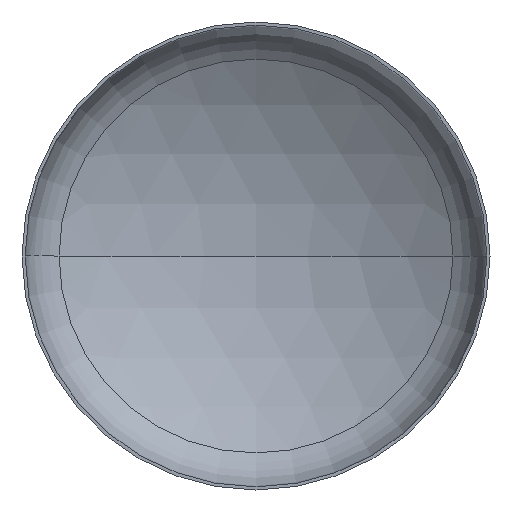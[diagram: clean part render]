
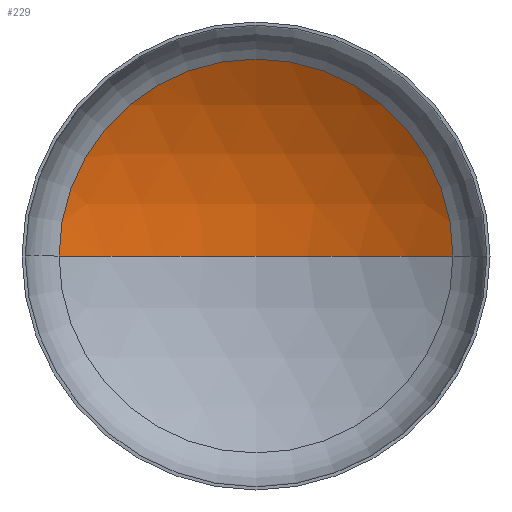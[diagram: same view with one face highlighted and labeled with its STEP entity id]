
A CAD part, front view. The second image highlights one B-rep face of the part: STEP entity #229.
In plain terms, the highlighted spherical face has radius 1520 mm.
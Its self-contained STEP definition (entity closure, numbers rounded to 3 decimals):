
#5 = AXIS2_PLACEMENT_3D ( 'NONE', #314, #170, #341 ) ;
#17 = FACE_OUTER_BOUND ( 'NONE', #21, .T. ) ;
#21 = EDGE_LOOP ( 'NONE', ( #36, #111, #65 ) ) ;
#22 = AXIS2_PLACEMENT_3D ( 'NONE', #288, #225, #180 ) ;
#34 = AXIS2_PLACEMENT_3D ( 'NONE', #191, #208, #210 ) ;
#35 = DIRECTION ( 'NONE',  ( 1., 0., 0. ) ) ;
#36 = ORIENTED_EDGE ( 'NONE', *, *, #371, .F. ) ;
#42 = AXIS2_PLACEMENT_3D ( 'NONE', #336, #285, #35 ) ;
#56 = VERTEX_POINT ( 'NONE', #294 ) ;
#65 = ORIENTED_EDGE ( 'NONE', *, *, #143, .T. ) ;
#104 = VERTEX_POINT ( 'NONE', #318 ) ;
#111 = ORIENTED_EDGE ( 'NONE', *, *, #149, .T. ) ;
#143 = EDGE_CURVE ( 'NONE', #104, #394, #260, .T. ) ;
#149 = EDGE_CURVE ( 'NONE', #56, #104, #311, .T. ) ;
#170 = DIRECTION ( 'NONE',  ( 0., 0., 1. ) ) ;
#180 = DIRECTION ( 'NONE',  ( -1., 0., 0. ) ) ;
#191 = CARTESIAN_POINT ( 'NONE',  ( 0., -1006.084, 0. ) ) ;
#208 = DIRECTION ( 'NONE',  ( 0., 0., -1. ) ) ;
#210 = DIRECTION ( 'NONE',  ( -1., 0., 0. ) ) ;
#225 = DIRECTION ( 'NONE',  ( 0., 0., -1. ) ) ;
#229 = ADVANCED_FACE ( 'NONE', ( #17 ), #255, .F. ) ;
#255 = SPHERICAL_SURFACE ( 'NONE', #22, 1520. ) ;
#260 = CIRCLE ( 'NONE', #42, 799.545 ) ;
#271 = CIRCLE ( 'NONE', #5, 1520. ) ;
#285 = DIRECTION ( 'NONE',  ( 0., -1., 0. ) ) ;
#288 = CARTESIAN_POINT ( 'NONE',  ( 0., -1006.084, 0. ) ) ;
#294 = CARTESIAN_POINT ( 'NONE',  ( 0., 513.916, 0. ) ) ;
#311 = CIRCLE ( 'NONE', #34, 1520. ) ;
#314 = CARTESIAN_POINT ( 'NONE',  ( 0., -1006.084, 0. ) ) ;
#318 = CARTESIAN_POINT ( 'NONE',  ( 799.545, 286.638, 0. ) ) ;
#336 = CARTESIAN_POINT ( 'NONE',  ( 0., 286.638, 0. ) ) ;
#341 = DIRECTION ( 'NONE',  ( 1., 0., 0. ) ) ;
#371 = EDGE_CURVE ( 'NONE', #56, #394, #271, .T. ) ;
#394 = VERTEX_POINT ( 'NONE', #405 ) ;
#405 = CARTESIAN_POINT ( 'NONE',  ( -799.545, 286.638, 0. ) ) ;
